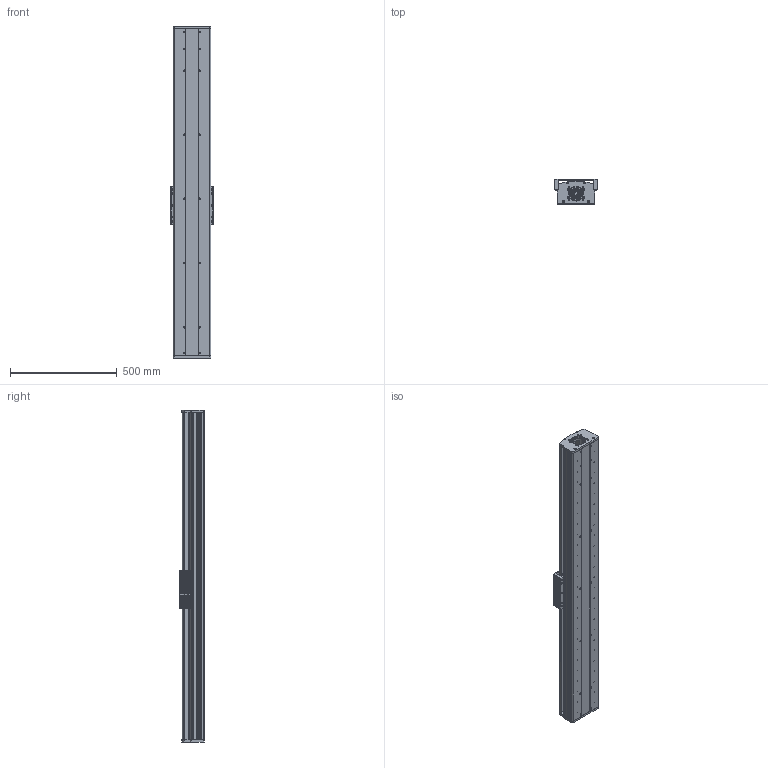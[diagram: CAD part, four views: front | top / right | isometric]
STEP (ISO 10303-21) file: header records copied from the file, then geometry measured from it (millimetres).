
FILE_DESCRIPTION (( 'STEP AP203' ), '1' );
FILE_NAME ('CF175-2-P1200.STEP', '2016-02-23T07:32:40', ( 'Sky123.Org' ), ( 'Sky123.Org' ), 'SwSTEP 2.0', 'SolidWorks 2015', '' );
FILE_SCHEMA (( 'CONFIG_CONTROL_DESIGN' ));
Length unit declared in the file: millimetre
Products named in the file (13): Y1-HGR20-1500絳寢; CF-HGH20CA賑輸; CF175-2賑雄啣; SFU2505-4; 175-2梓袧嘐隅釱; X1-SFS2525-1185; 175-2侜督80萇儂釱; 175-2耜啣; CF175-2-P1200; 175-2盓傅釱; CF175-2蹟譫釱; Y1-CF175-2-P1200-1547裔啣; Y1-CF175-2-P1200-1547臏倰第
Assembly tree (16 placements, depth 2):
  CF175-2-P1200
    CF-HGH20CA賑輸  x4
    SFU2505-4
    X1-SFS2525-1185
    175-2耜啣
    175-2盓傅釱
    CF175-2蹟譫釱
    Y1-CF175-2-P1200-1547裔啣
    Y1-CF175-2-P1200-1547臏倰第
    Y1-HGR20-1500絳寢  x2
    CF175-2賑雄啣
    175-2梓袧嘐隅釱
    175-2侜督80萇儂釱
Bounding box: 200 x 116.8 x 1555 mm (x, y, z)
Volume: 11492974.6 mm3; surface area: 3123144.3 mm2
Topology: 20 solids, 20 shells, 1544 faces, 4062 edges, 2692 vertices
Faces by surface type: cylinder 849, plane 673, cone 20, bspline 2
Entity records: 45276 total; most frequent: CARTESIAN_POINT 11664, DIRECTION 7036, ORIENTED_EDGE 6462, EDGE_CURVE 3231, AXIS2_PLACEMENT_3D 2673, VERTEX_POINT 2140, LINE 1690, VECTOR 1690
